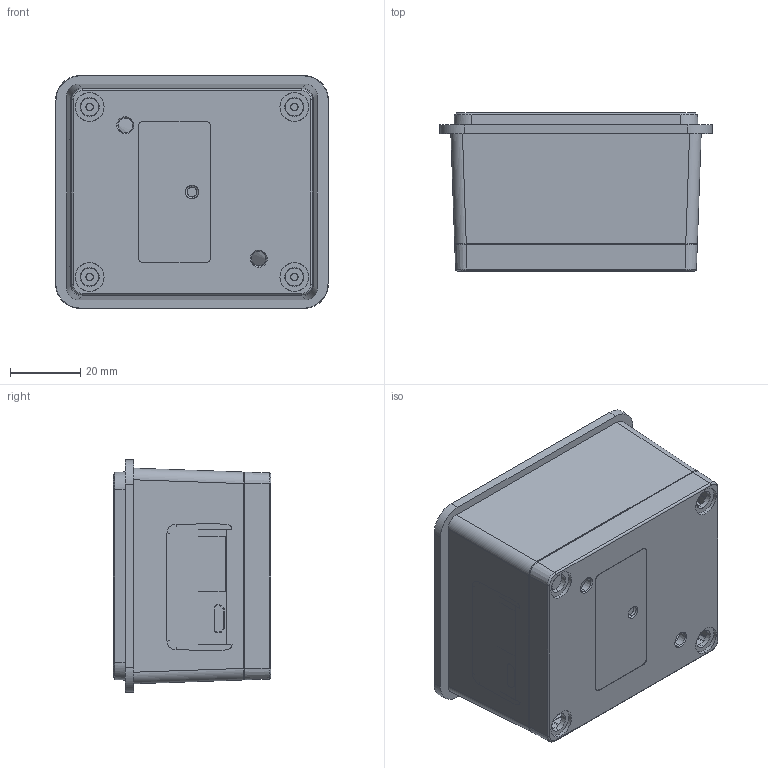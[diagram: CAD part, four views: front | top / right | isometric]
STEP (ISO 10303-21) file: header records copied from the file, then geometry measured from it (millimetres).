
FILE_DESCRIPTION((''),'2;1');
FILE_NAME('RT870-3D-DRAWING_ASM','2019-08-29T',('ASUS'),(''),'PRO/ENGINEER BY PARAMETRIC TECHNOLOGY CORPORATION, 2008380','PRO/ENGINEER BY PARAMETRIC TECHNOLOGY CORPORATION, 2008380','');
FILE_SCHEMA(('CONFIG_CONTROL_DESIGN'));
Length unit declared in the file: millimetre
Products named in the file (6): 2_ANY; 1_ANY; 3_ANY; RT870_ASM; _RT870-3D; RT870-3D-DRAWING_ASM
Assembly tree (5 placements, depth 3):
  RT870-3D-DRAWING_ASM
    RT870_ASM
      2_ANY
      1_ANY
      3_ANY
    _RT870-3D
Bounding box: 77.8 x 45 x 66.4 mm (x, y, z)
Volume: 14566.5 mm3; surface area: 53023.7 mm2
Topology: 2 solids, 3 shells, 753 faces, 2078 edges, 1364 vertices
Faces by surface type: plane 433, cone 132, cylinder 90, bspline 76, torus 22
Entity records: 29673 total; most frequent: CARTESIAN_POINT 10999, ORIENTED_EDGE 4148, DIRECTION 3416, EDGE_CURVE 2078, VERTEX_POINT 1364, VECTOR 1256, LINE 1256, AXIS2_PLACEMENT_3D 1080
